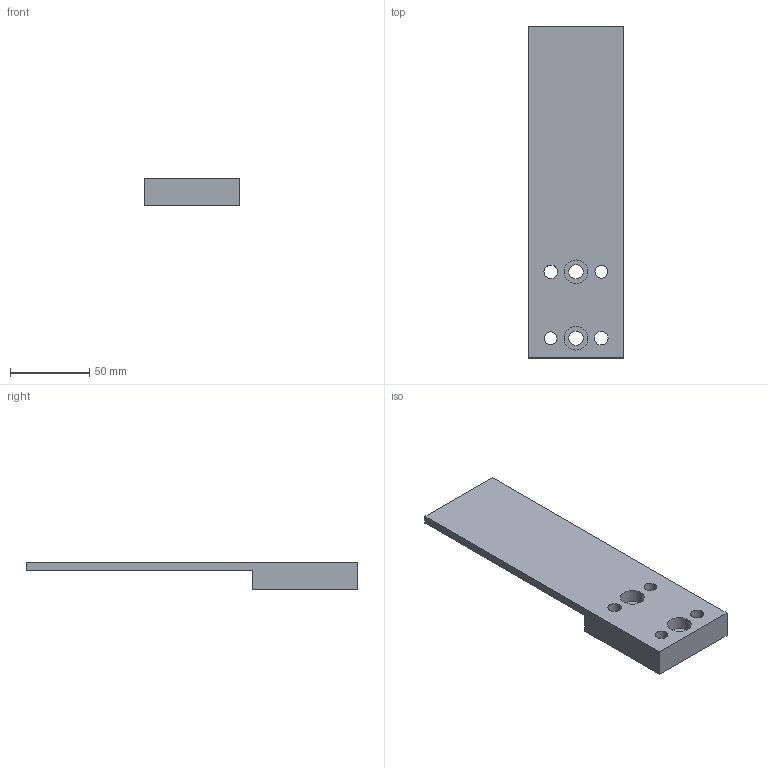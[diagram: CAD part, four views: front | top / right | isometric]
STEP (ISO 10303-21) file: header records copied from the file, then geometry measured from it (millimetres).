
FILE_DESCRIPTION (( 'STEP AP203' ), '1' );
FILE_NAME ('PPE80-P1.step', '2017-02-15T12:26:00', ( '' ), ( '' ), 'SwSTEP 2.0', 'SolidWorks 2012', '' );
FILE_SCHEMA (( 'CONFIG_CONTROL_DESIGN' ));
Length unit declared in the file: millimetre
Products named in the file (1): PPE80-P1
Bounding box: 60.2 x 210 x 17.5 mm (x, y, z)
Volume: 107853.6 mm3; surface area: 33684.3 mm2
Topology: 1 solids, 1 shells, 26 faces, 66 edges, 44 vertices
Faces by surface type: cylinder 16, plane 10
Entity records: 903 total; most frequent: DIRECTION 152, CARTESIAN_POINT 137, ORIENTED_EDGE 132, EDGE_CURVE 66, AXIS2_PLACEMENT_3D 59, VERTEX_POINT 44, EDGE_LOOP 40, LINE 34
